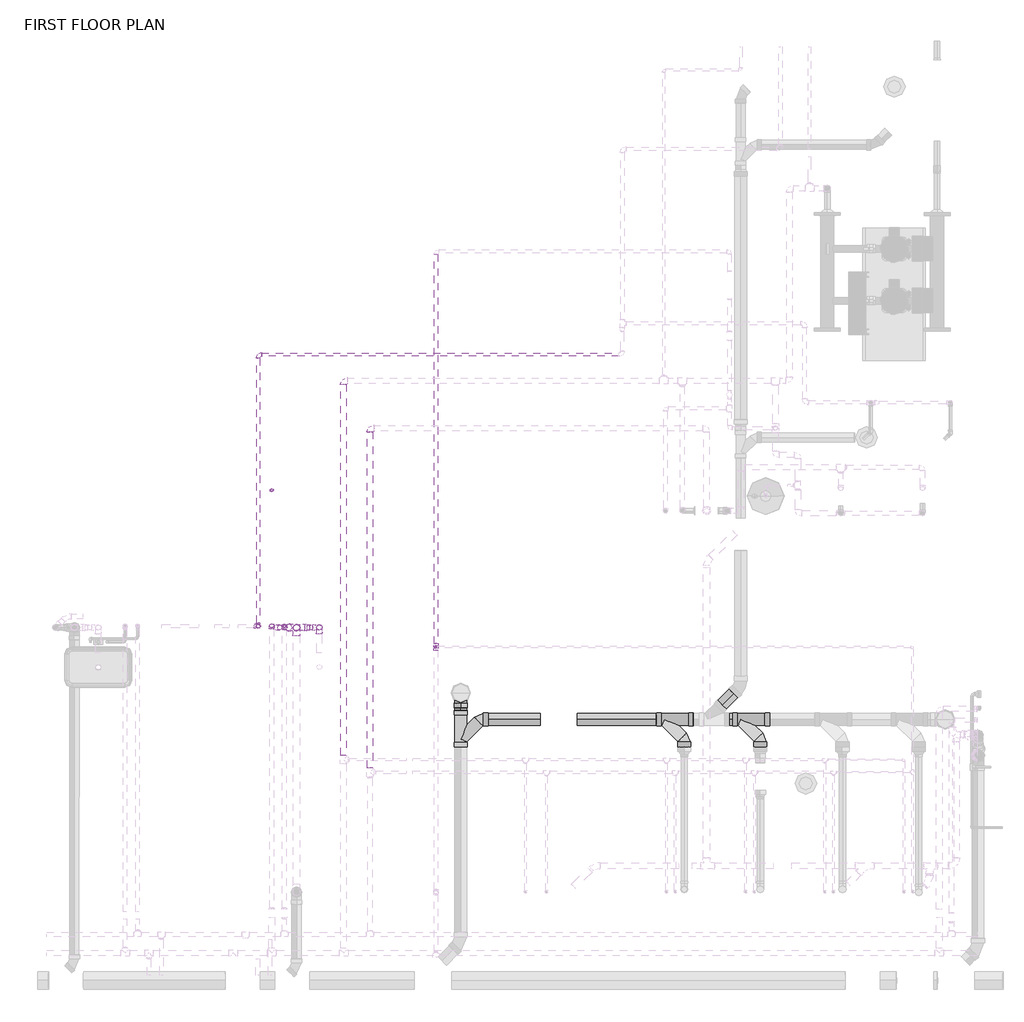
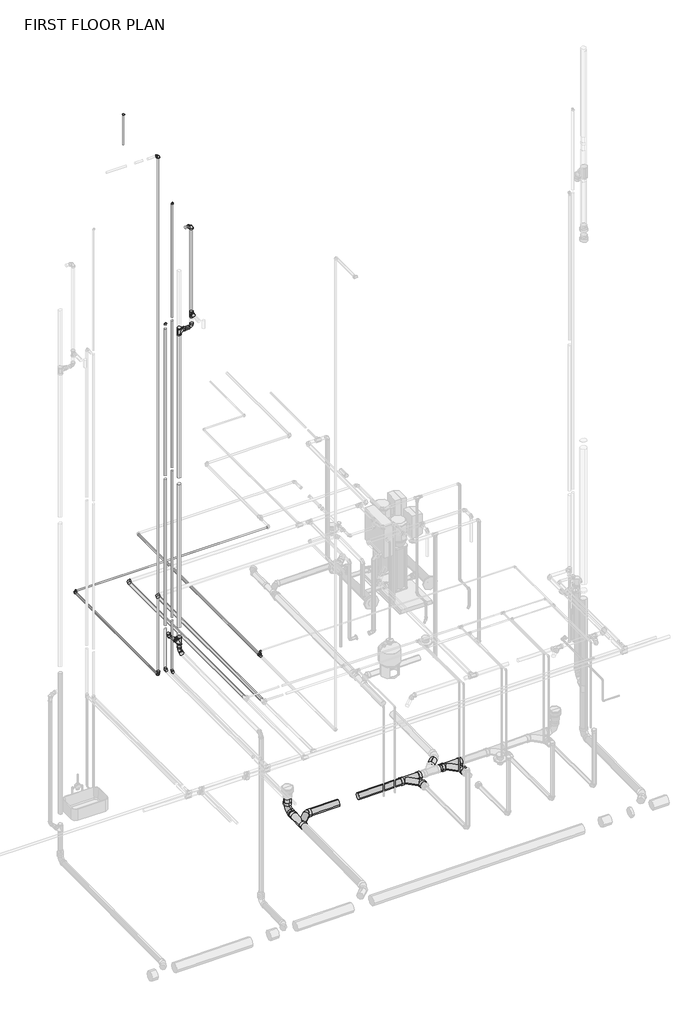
# One storey, part 17 of 29: 30 pipe segments, 28 pipe fittings.
"""IFC4 building model written with IfcOpenShell, lengths in millimetres."""

from ifc_helpers import new_model, si_unit, point, frame, frame_2d, origin, place, context, project, spatial, circle_curve, trimmed, segment, composite_curve, outline, extrude, transform, mapped, element, save
from components import bend_pvc_sch_40_dwv_standard_738aab8b, bend_pvc_sch_40_dwv_standard_0fc7ae8a, bend_pvc_sch_40_dwv_standard_e287c2f6, bend_pvc_sch_40_dwv_standard_5cc4eb0d, bend_pvc_sch_40_dwv_standard_1a9722b0, coupling_concentric_reducing_threaded_mi_class_150_standard_68d17141, elbow_threaded_mi_class_150_standard_9e2fd9b8, elbow_threaded_mi_class_150_standard_46a92b09, ges_wye_45_deg_threaded_mi_class_150_cast_iron_sanitary_d237d51e, pipe_elbow_copper_k_557be1fc, pipe_elbow_copper_k_764eecca, pipe_elbow_copper_k_aad62f2d, pipe_elbow_copper_k_aee2f062, pipe_tee_copper_k_60c871d1, pipe_transition_copper_k_7553a2c5, pipe_transition_copper_k_0a44d8ef, pipe_transition_copper_k_2a5e9307, pipe_transition_copper_k_d15df449, reducer_pvc_sch_40_dwv_standard_f288b410, tee_sanitary_pvc_sch_40_dwv_standard_bd882a60, tee_sanitary_pvc_sch_40_dwv_standard_ad422280, wye_combination_with_8th_bend_pvc_sch_40_dwv_standard_7e54e68b, wye_combination_with_8th_bend_pvc_sch_40_dwv_standard_f6c291ce, wye_combination_with_8th_bend_pvc_sch_40_dwv_standard_4b4f6425

model = new_model("IFC4")

# Units and contexts
model_context = context("Model", 3, world=origin())
ifc_project = project(units=[si_unit("LENGTHUNIT", "METRE", prefix="MILLI")], contexts=[model_context])

# Site, building, storey
site = spatial("IfcSite", under=ifc_project)
building = spatial("IfcBuilding", under=site)
storey = spatial("IfcBuildingStorey", under=building, Name="FIRST FLOOR PLAN", Elevation=0.0)

# Pipe fittings
placement = place(None, origin())
bend_pvc_sch_40_dwv_standard_shape = bend_pvc_sch_40_dwv_standard_738aab8b(model_context)
element("IfcPipeFitting", 1, ObjectType="Bend - PVC - Sch 40 - DWV : Standard", at=placement, inside=storey, context=model_context, shape_type="MappedRepresentation", body=[
    mapped(bend_pvc_sch_40_dwv_standard_shape, transform((10595.0959875, 8912.2305306, 10784.2112003), x_axis=(0.0, 0.0, 1.0), y_axis=(-0.9999118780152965, -0.013275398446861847, 0.0), z_axis=(0.013275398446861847, -0.9999118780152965, 0.0))),
])
bend_pvc_sch_40_dwv_standard_2_shape = bend_pvc_sch_40_dwv_standard_0fc7ae8a(model_context)
element("IfcPipeFitting", 2, ObjectType="Bend - PVC - Sch 40 - DWV : Standard", at=placement, inside=storey, context=model_context, shape_type="MappedRepresentation", body=[
    mapped(bend_pvc_sch_40_dwv_standard_2_shape, transform((10181.640043, 8912.4094236, 3135.3875543), x_axis=(-0.70710930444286, 0.0032160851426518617, 0.7070969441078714), y_axis=(0.7070896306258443, -0.0032159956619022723, 0.7071166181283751), z_axis=(0.004548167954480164, 0.9999896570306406, 0.0))),
])
bend_pvc_sch_40_dwv_standard_3_shape = bend_pvc_sch_40_dwv_standard_e287c2f6(model_context)
element("IfcPipeFitting", 3, ObjectType="Bend - PVC - Sch 40 - DWV : Standard", at=placement, inside=storey, context=model_context, shape_type="MappedRepresentation", body=[
    mapped(bend_pvc_sch_40_dwv_standard_3_shape, transform((10375.4881099, 8911.527761, 2777.0596515), x_axis=(0.0, 0.0, -1.0), y_axis=(0.0, -1.0, 0.0), z_axis=(-1.0, 0.0, 0.0))),
])
bend_pvc_sch_40_dwv_standard_4_shape = bend_pvc_sch_40_dwv_standard_5cc4eb0d(model_context)
element("IfcPipeFitting", 4, ObjectType="Bend - PVC - Sch 40 - DWV : Standard", at=placement, inside=storey, context=model_context, shape_type="MappedRepresentation", body=[
    mapped(bend_pvc_sch_40_dwv_standard_4_shape, transform((11956.7906356, 8283.1947391, -406.2826265), x_axis=(0.0, 0.0, -1.0), y_axis=(0.0, -1.0, 0.0), z_axis=(-1.0, 0.0, 0.0))),
])
bend_pvc_sch_40_dwv_standard_5_shape = bend_pvc_sch_40_dwv_standard_1a9722b0(model_context)
element("IfcPipeFitting", 5, ObjectType="Bend - PVC - Sch 40 - DWV : Standard", at=placement, inside=storey, context=model_context, shape_type="MappedRepresentation", body=[
    mapped(bend_pvc_sch_40_dwv_standard_5_shape, transform((10595.1276117, 8911.527761, 8870.855157), x_axis=(1.0, 0.0, 0.0), y_axis=(0.0, 0.00391158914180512, 0.9999923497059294), z_axis=(0.0, -0.9999923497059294, 0.00391158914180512))),
])
coupling_concentric_reducing_threaded_mi_class_150_standard_shape = coupling_concentric_reducing_threaded_mi_class_150_standard_68d17141(model_context)
element("IfcPipeFitting", 6, ObjectType="Coupling Concentric Reducing - Threaded - MI - Class 150 : Standard", at=placement, inside=storey, context=model_context, shape_type="MappedRepresentation", body=[
    mapped(coupling_concentric_reducing_threaded_mi_class_150_standard_shape, transform((10006.6066918, 8924.7677357, 2471.7), x_axis=(0.0, 0.0, 1.0), y_axis=(-1.0, 0.0, 0.0), z_axis=(0.0, -1.0, 0.0))),
])
elbow_threaded_mi_class_150_standard_shape = elbow_threaded_mi_class_150_standard_9e2fd9b8(model_context)
element("IfcPipeFitting", 7, ObjectType="Elbow - Threaded - MI - Class 150 : Standard", at=placement, inside=storey, context=model_context, shape_type="MappedRepresentation", body=[
    mapped(elbow_threaded_mi_class_150_standard_shape, transform((10006.6066918, 8924.7677357, 12311.3499169), x_axis=(0.0, 0.0, 1.0), y_axis=(-1.0, 0.0, 0.0), z_axis=(0.0, -1.0, 0.0))),
])
elbow_threaded_mi_class_150_standard_2_shape = elbow_threaded_mi_class_150_standard_46a92b09(model_context)
element("IfcPipeFitting", 8, ObjectType="Elbow - Threaded - MI - Class 150 : Standard", at=placement, inside=storey, context=model_context, shape_type="MappedRepresentation", body=[
    mapped(elbow_threaded_mi_class_150_standard_2_shape, transform((10006.6066918, 11540.9677357, 2438.4), x_axis=(-1.0, 0.0, 0.0), y_axis=(0.0, -1.0, 0.0), z_axis=(0.0, 0.0, 1.0))),
])
element("IfcPipeFitting", 9, ObjectType="Elbow - Threaded - MI - Class 150 : Standard", at=placement, inside=storey, context=model_context, shape_type="MappedRepresentation", body=[
    mapped(elbow_threaded_mi_class_150_standard_2_shape, transform((10006.6066918, 8924.7677357, 2438.4), x_axis=(0.0, -1.0, 0.0), y_axis=(0.0, 0.0, 1.0), z_axis=(-1.0, 0.0, 0.0))),
])
ges_wye_45_deg_threaded_mi_class_150_cast_iron_sanitary_shape = ges_wye_45_deg_threaded_mi_class_150_cast_iron_sanitary_d237d51e(model_context)
element("IfcPipeFitting", 10, ObjectType="GES Wye 45 Deg - Threaded - MI - Class 150 : Cast Iron- Sanitary", at=placement, inside=storey, context=model_context, shape_type="MappedRepresentation", body=[
    mapped(ges_wye_45_deg_threaded_mi_class_150_cast_iron_sanitary_shape, transform((10375.4881099, 8911.527761, 2941.5428758), x_axis=(0.0, 0.0, 1.0), y_axis=(0.9999896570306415, -0.004548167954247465, 0.0), z_axis=(0.004548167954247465, 0.9999896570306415, 0.0))),
])
pipe_elbow_copper_k_shape = pipe_elbow_copper_k_557be1fc(model_context)
element("IfcPipeFitting", 11, ObjectType="Pipe Elbow : Copper- K", at=placement, inside=storey, context=model_context, shape_type="MappedRepresentation", body=[
    mapped(pipe_elbow_copper_k_shape, transform((10136.7487434, 8927.8175381, 2490.6882813), x_axis=(0.0, 1.0, 0.0), y_axis=(0.0, 0.0, 1.0), z_axis=(1.0, 0.0, 0.0))),
])
pipe_elbow_copper_k_2_shape = pipe_elbow_copper_k_764eecca(model_context)
element("IfcPipeFitting", 12, ObjectType="Pipe Elbow : Copper- K", at=placement, inside=storey, context=model_context, shape_type="MappedRepresentation", body=[
    mapped(pipe_elbow_copper_k_2_shape, transform((10828.4459875, 11290.0175381, 2490.6882817), x_axis=(-1.0, 0.0, 1.1944832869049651e-08), y_axis=(0.0, -1.0000000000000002, 0.0), z_axis=(1.1944832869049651e-08, 0.0, 1.0))),
])
element("IfcPipeFitting", 13, ObjectType="Pipe Elbow : Copper- K", at=placement, inside=storey, context=model_context, shape_type="MappedRepresentation", body=[
    mapped(pipe_elbow_copper_k_2_shape, transform((11082.5356736, 10833.0897034, 2413.0), x_axis=(-1.0, 0.0, 0.0), y_axis=(0.0, -1.0, 0.0), z_axis=(0.0, 0.0, 1.0))),
])
pipe_elbow_copper_k_3_shape = pipe_elbow_copper_k_aad62f2d(model_context)
element("IfcPipeFitting", 14, ObjectType="Pipe Elbow : Copper- K", at=placement, inside=storey, context=model_context, shape_type="MappedRepresentation", body=[
    mapped(pipe_elbow_copper_k_3_shape, transform((10257.4812856, 8927.8175381, 11328.4), x_axis=(0.0, 0.0, 1.0), y_axis=(-0.0002598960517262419, -0.9999999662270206, 0.0), z_axis=(0.9999999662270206, -0.0002598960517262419, 0.0))),
])
element("IfcPipeFitting", 15, ObjectType="Pipe Elbow : Copper- K", at=placement, inside=storey, context=model_context, shape_type="MappedRepresentation", body=[
    mapped(pipe_elbow_copper_k_3_shape, transform((11717.5356736, 8725.6137881, 2413.0), x_axis=(0.0, 0.0, 1.0), y_axis=(1.0, 0.0, 0.0), z_axis=(0.0, 1.0, 0.0))),
])
pipe_elbow_copper_k_4_shape = pipe_elbow_copper_k_aee2f062(model_context)
element("IfcPipeFitting", 16, ObjectType="Pipe Elbow : Copper- K", at=placement, inside=storey, context=model_context, shape_type="MappedRepresentation", body=[
    mapped(pipe_elbow_copper_k_4_shape, transform((10257.4812856, 8927.8175381, 2413.0), x_axis=(0.0, 1.0, 0.0), y_axis=(0.0, 0.0, 1.0), z_axis=(1.0, 0.0, 0.0))),
])
pipe_tee_copper_k_shape = pipe_tee_copper_k_60c871d1(model_context)
element("IfcPipeFitting", 17, ObjectType="Pipe Tee : Copper- K", at=placement, inside=storey, context=model_context, shape_type="MappedRepresentation", body=[
    mapped(pipe_tee_copper_k_shape, transform((11717.5356736, 8725.6137881, 2336.8), x_axis=(0.0, -1.0, 0.0), y_axis=(0.0, 0.0, -1.0), z_axis=(1.0, 0.0, 0.0))),
])
pipe_transition_copper_k_shape = pipe_transition_copper_k_7553a2c5(model_context)
element("IfcPipeFitting", 18, ObjectType="Pipe Transition : Copper- K", at=placement, inside=storey, context=model_context, shape_type="MappedRepresentation", body=[
    mapped(pipe_transition_copper_k_shape, transform((11717.5356736, 8725.6137881, 2370.1375), x_axis=(0.0, 0.0, 1.0), y_axis=(0.0, 1.0, 0.0), z_axis=(-1.0, 0.0, 0.0))),
])
pipe_transition_copper_k_2_shape = pipe_transition_copper_k_0a44d8ef(model_context)
element("IfcPipeFitting", 19, ObjectType="Pipe Transition : Copper- K", at=placement, inside=storey, context=model_context, shape_type="MappedRepresentation", body=[
    mapped(pipe_transition_copper_k_2_shape, transform((10136.7487434, 10234.3300381, 12255.5), x_axis=(0.0, 0.0, -1.0), y_axis=(1.0, 0.0, 0.0), z_axis=(0.0, -1.0, 0.0))),
])
pipe_transition_copper_k_3_shape = pipe_transition_copper_k_2a5e9307(model_context)
element("IfcPipeFitting", 20, ObjectType="Pipe Transition : Copper- K", at=placement, inside=storey, context=model_context, shape_type="MappedRepresentation", body=[
    mapped(pipe_transition_copper_k_3_shape, transform((10257.4812856, 8927.8175381, 11310.9375), x_axis=(0.0, 0.0, -1.0), y_axis=(-0.9999999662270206, 0.0002598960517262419, 0.0), z_axis=(0.0002598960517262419, 0.9999999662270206, 0.0))),
])
pipe_transition_copper_k_4_shape = pipe_transition_copper_k_d15df449(model_context)
element("IfcPipeFitting", 21, ObjectType="Pipe Transition : Copper- K", at=placement, inside=storey, context=model_context, shape_type="MappedRepresentation", body=[
    mapped(pipe_transition_copper_k_4_shape, transform((10136.7487434, 8927.8175381, 9069.2882812), x_axis=(0.0, 0.0, 1.0), y_axis=(1.0, 0.0, 0.0), z_axis=(0.0, 1.0, 0.0))),
])
reducer_pvc_sch_40_dwv_standard_shape = reducer_pvc_sch_40_dwv_standard_f288b410(model_context)
element("IfcPipeFitting", 22, ObjectType="Reducer - PVC - Sch 40 - DWV : Standard", at=placement, inside=storey, context=model_context, shape_type="MappedRepresentation", body=[
    mapped(reducer_pvc_sch_40_dwv_standard_shape, transform((10453.2840893, 8911.527761, 8870.3344853), x_axis=(0.9999457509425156, 0.0, 0.010416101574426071), y_axis=(0.0, 1.0000000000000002, 0.0), z_axis=(-0.010416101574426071, 0.0, 0.9999457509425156))),
])
element("IfcPipeFitting", 23, ObjectType="Reducer - PVC - Sch 40 - DWV : Standard", at=placement, inside=storey, context=model_context, shape_type="MappedRepresentation", body=[
    mapped(reducer_pvc_sch_40_dwv_standard_shape, transform((10303.6505052, 8911.8544938, 3013.3792248), x_axis=(-0.7071093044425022, 0.0032160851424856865, 0.7070969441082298), y_axis=(-0.004548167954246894, -0.9999896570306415, 0.0), z_axis=(0.7070896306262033, -0.003215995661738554, 0.7071166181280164))),
])
tee_sanitary_pvc_sch_40_dwv_standard_shape = tee_sanitary_pvc_sch_40_dwv_standard_bd882a60(model_context)
element("IfcPipeFitting", 24, ObjectType="Tee Sanitary - PVC - Sch 40 - DWV : Standard", at=placement, inside=storey, context=model_context, shape_type="MappedRepresentation", body=[
    mapped(tee_sanitary_pvc_sch_40_dwv_standard_shape, transform((10375.4881099, 8911.527761, 8869.5241105), x_axis=(0.0, 0.0, 1.0), y_axis=(-1.0, 0.0, 0.0), z_axis=(0.0, -1.0, 0.0))),
])
tee_sanitary_pvc_sch_40_dwv_standard_2_shape = tee_sanitary_pvc_sch_40_dwv_standard_ad422280(model_context)
element("IfcPipeFitting", 25, ObjectType="Tee Sanitary - PVC - Sch 40 - DWV : Standard", at=placement, inside=storey, context=model_context, shape_type="MappedRepresentation", body=[
    mapped(tee_sanitary_pvc_sch_40_dwv_standard_2_shape, transform((10595.0959875, 8912.2305306, 9112.4170389), x_axis=(0.0, 0.0, 1.0), y_axis=(0.0, 1.0, 0.0), z_axis=(-1.0, 0.0, 0.0))),
])
wye_combination_with_8th_bend_pvc_sch_40_dwv_standard_shape = wye_combination_with_8th_bend_pvc_sch_40_dwv_standard_7e54e68b(model_context)
element("IfcPipeFitting", 26, ObjectType="Wye Combination with 8th Bend - PVC - Sch 40 - DWV : Standard", at=placement, inside=storey, context=model_context, shape_type="MappedRepresentation", body=[
    mapped(wye_combination_with_8th_bend_pvc_sch_40_dwv_standard_shape, transform((14840.6890335, 8027.5623861, -378.9046856), x_axis=(0.9999457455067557, 3.826801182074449e-06, 0.010416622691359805), y_axis=(1.253203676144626e-05, 0.9999987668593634, -0.0015703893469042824), z_axis=(-0.010416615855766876, 0.0015704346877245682, 0.9999445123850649))),
])
wye_combination_with_8th_bend_pvc_sch_40_dwv_standard_2_shape = wye_combination_with_8th_bend_pvc_sch_40_dwv_standard_f6c291ce(model_context)
element("IfcPipeFitting", 27, ObjectType="Wye Combination with 8th Bend - PVC - Sch 40 - DWV : Standard", at=placement, inside=storey, context=model_context, shape_type="MappedRepresentation", body=[
    mapped(wye_combination_with_8th_bend_pvc_sch_40_dwv_standard_2_shape, transform((14106.8553548, 8027.5595777, -386.5491689), x_axis=(0.9999457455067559, 3.826801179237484e-06, 0.010416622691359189), y_axis=(1.2834218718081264e-05, 0.9999987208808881, -0.0015993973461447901), z_axis=(-0.01041661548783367, 0.0015994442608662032, 0.9999444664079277))),
])
wye_combination_with_8th_bend_pvc_sch_40_dwv_standard_3_shape = wye_combination_with_8th_bend_pvc_sch_40_dwv_standard_4b4f6425(model_context)
element("IfcPipeFitting", 28, ObjectType="Wye Combination with 8th Bend - PVC - Sch 40 - DWV : Standard", at=placement, inside=storey, context=model_context, shape_type="MappedRepresentation", body=[
    mapped(wye_combination_with_8th_bend_pvc_sch_40_dwv_standard_3_shape, transform((11956.7906356, 8027.5513494, -408.946797), x_axis=(0.0, 0.9999457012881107, 0.010420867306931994), y_axis=(-0.99994575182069, 0.00010854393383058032, -0.010415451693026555), z_axis=(-0.010416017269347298, -0.010420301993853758, 0.9998914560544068))),
])

# Pipe segments
element("IfcPipeSegment", 29, ObjectType="Black Iron - GAS", at=placement, inside=storey, context=model_context, shape_type="SweptSolid", body=[
    extrude(outline(composite_curve([segment(trimmed(circle_curve(frame_2d((11540.9677357, 2438.4)), 13.335), [point((11554.3027357, 2438.4))], [point((11540.9677357, 2425.065))], False, "CARTESIAN"), True, "CONTINUOUS"), segment(trimmed(circle_curve(frame_2d((11540.9677357, 2438.4)), 13.335), [point((11540.9677357, 2425.065))], [point((11527.6327357, 2438.4))], False, "CARTESIAN"), True, "CONTINUOUS"), segment(trimmed(circle_curve(frame_2d((11540.9677357, 2438.4)), 13.335), [point((11527.6327357, 2438.4))], [point((11540.9677357, 2451.735))], False, "CARTESIAN"), True, "CONTINUOUS"), segment(trimmed(circle_curve(frame_2d((11540.9677357, 2438.4)), 13.335), [point((11540.9677357, 2451.735))], [point((11554.3027357, 2438.4))], False, "CARTESIAN"), True, "CONTINUOUS")], self_intersect=False)), frame((10039.9066918, 0.0, 0.0), z_axis=(1.0, 0.0, 0.0), x_axis=(0.0, 1.0, 0.0)), (0.0, 0.0, 1.0), 3438.6),
])
element("IfcPipeSegment", 30, ObjectType="Black Iron - GAS", at=placement, inside=storey, context=model_context, shape_type="SweptSolid", body=[
    extrude(outline(composite_curve([segment(trimmed(circle_curve(frame_2d((2438.4, 10006.6066918)), 13.335), [point((2438.4, 9993.2716918))], [point((2425.065, 10006.6066918))], False, "CARTESIAN"), True, "CONTINUOUS"), segment(trimmed(circle_curve(frame_2d((2438.4, 10006.6066918)), 13.335), [point((2425.065, 10006.6066918))], [point((2438.4, 10019.9416918))], False, "CARTESIAN"), True, "CONTINUOUS"), segment(trimmed(circle_curve(frame_2d((2438.4, 10006.6066918)), 13.335), [point((2438.4, 10019.9416918))], [point((2451.735, 10006.6066918))], False, "CARTESIAN"), True, "CONTINUOUS"), segment(trimmed(circle_curve(frame_2d((2438.4, 10006.6066918)), 13.335), [point((2451.735, 10006.6066918))], [point((2438.4, 9993.2716918))], False, "CARTESIAN"), True, "CONTINUOUS")], self_intersect=False)), frame((0.0, 8958.0677357, 0.0), z_axis=(0.0, 1.0, 0.0), x_axis=(0.0, 0.0, 1.0)), (0.0, 0.0, 1.0), 2549.6),
])
element("IfcPipeSegment", 31, ObjectType="Black Iron - GAS", at=placement, inside=storey, context=model_context, shape_type="SweptSolid", body=[
    extrude(outline(composite_curve([segment(trimmed(circle_curve(frame_2d((10006.6066918, 8924.7677357)), 16.7005), [point((9989.9061918, 8924.7677357))], [point((10006.6066918, 8941.4682357))], False, "CARTESIAN"), True, "CONTINUOUS"), segment(trimmed(circle_curve(frame_2d((10006.6066918, 8924.7677357)), 16.7005), [point((10006.6066918, 8941.4682357))], [point((10023.3071918, 8924.7677357))], False, "CARTESIAN"), True, "CONTINUOUS"), segment(trimmed(circle_curve(frame_2d((10006.6066918, 8924.7677357)), 16.7005), [point((10023.3071918, 8924.7677357))], [point((10006.6066918, 8908.0672357))], False, "CARTESIAN"), True, "CONTINUOUS"), segment(trimmed(circle_curve(frame_2d((10006.6066918, 8924.7677357)), 16.7005), [point((10006.6066918, 8908.0672357))], [point((9989.9061918, 8924.7677357))], False, "CARTESIAN"), True, "CONTINUOUS")], self_intersect=False)), frame((0.0, 0.0, 2514.6), z_axis=(0.0, 0.0, 1.0), x_axis=(1.0, 0.0, 0.0)), (0.0, 0.0, 1.0), 9758.6499169),
])
element("IfcPipeSegment", 32, ObjectType="Copper", at=placement, inside=storey, context=model_context, shape_type="SweptSolid", body=[
    extrude(outline(composite_curve([segment(trimmed(circle_curve(frame_2d((10136.7487434, 8927.8175381)), 20.6375), [point((10116.1112434, 8927.8175381))], [point((10136.7487434, 8948.4550381))], False, "CARTESIAN"), True, "CONTINUOUS"), segment(trimmed(circle_curve(frame_2d((10136.7487434, 8927.8175381)), 20.6375), [point((10136.7487434, 8948.4550381))], [point((10157.3862434, 8927.8175381))], False, "CARTESIAN"), True, "CONTINUOUS"), segment(trimmed(circle_curve(frame_2d((10136.7487434, 8927.8175381)), 20.6375), [point((10157.3862434, 8927.8175381))], [point((10136.7487434, 8907.1800381))], False, "CARTESIAN"), True, "CONTINUOUS"), segment(trimmed(circle_curve(frame_2d((10136.7487434, 8927.8175381)), 20.6375), [point((10136.7487434, 8907.1800381))], [point((10116.1112434, 8927.8175381))], False, "CARTESIAN"), True, "CONTINUOUS")], self_intersect=False)), frame((0.0, 0.0, 9045.8726563), z_axis=(0.0, 0.0, 1.0), x_axis=(1.0, 0.0, 0.0)), (0.0, 0.0, 1.0), 23.415625),
])
element("IfcPipeSegment", 33, ObjectType="Copper", at=placement, inside=storey, context=model_context, shape_type="SweptSolid", body=[
    extrude(outline(composite_curve([segment(trimmed(circle_curve(frame_2d((10257.4812856, 8927.8175381)), 17.4625), [point((10240.0187856, 8927.8175381))], [point((10257.4812856, 8945.2800381))], False, "CARTESIAN"), True, "CONTINUOUS"), segment(trimmed(circle_curve(frame_2d((10257.4812856, 8927.8175381)), 17.4625), [point((10257.4812856, 8945.2800381))], [point((10274.9437856, 8927.8175381))], False, "CARTESIAN"), True, "CONTINUOUS"), segment(trimmed(circle_curve(frame_2d((10257.4812856, 8927.8175381)), 17.4625), [point((10274.9437856, 8927.8175381))], [point((10257.4812856, 8910.3550381))], False, "CARTESIAN"), True, "CONTINUOUS"), segment(trimmed(circle_curve(frame_2d((10257.4812856, 8927.8175381)), 17.4625), [point((10257.4812856, 8910.3550381))], [point((10240.0187856, 8927.8175381))], False, "CARTESIAN"), True, "CONTINUOUS")], self_intersect=False)), frame((0.0, 0.0, 9154.5171883), z_axis=(0.0, 0.0, 1.0), x_axis=(1.0, 0.0, 0.0)), (0.0, 0.0, 1.0), 2152.0546867),
])
element("IfcPipeSegment", 34, ObjectType="Copper", at=placement, inside=storey, context=model_context, shape_type="SweptSolid", body=[
    extrude(outline(composite_curve([segment(trimmed(circle_curve(frame_2d((2490.6882817, 10828.4459875)), 26.9875), [point((2490.6882817, 10801.4584875))], [point((2463.7007817, 10828.4459875))], False, "CARTESIAN"), True, "CONTINUOUS"), segment(trimmed(circle_curve(frame_2d((2490.6882817, 10828.4459875)), 26.9875), [point((2463.7007817, 10828.4459875))], [point((2490.6882817, 10855.4334875))], False, "CARTESIAN"), True, "CONTINUOUS"), segment(trimmed(circle_curve(frame_2d((2490.6882817, 10828.4459875)), 26.9875), [point((2490.6882817, 10855.4334875))], [point((2517.6757817, 10828.4459875))], False, "CARTESIAN"), True, "CONTINUOUS"), segment(trimmed(circle_curve(frame_2d((2490.6882817, 10828.4459875)), 26.9875), [point((2517.6757817, 10828.4459875))], [point((2490.6882817, 10801.4584875))], False, "CARTESIAN"), True, "CONTINUOUS")], self_intersect=False)), frame((0.0, 7682.744996, 0.0), z_axis=(0.0, 1.0, 0.0), x_axis=(0.0, 0.0, 1.0)), (0.0, 0.0, 1.0), 3570.760042),
])
element("IfcPipeSegment", 35, ObjectType="Copper", at=placement, inside=storey, context=model_context, shape_type="SweptSolid", body=[
    extrude(outline(composite_curve([segment(trimmed(circle_curve(frame_2d((2413.0, 11082.5356736)), 26.9875), [point((2413.0, 11055.5481736))], [point((2386.0125, 11082.5356736))], False, "CARTESIAN"), True, "CONTINUOUS"), segment(trimmed(circle_curve(frame_2d((2413.0, 11082.5356736)), 26.9875), [point((2386.0125, 11082.5356736))], [point((2413.0, 11109.5231736))], False, "CARTESIAN"), True, "CONTINUOUS"), segment(trimmed(circle_curve(frame_2d((2413.0, 11082.5356736)), 26.9875), [point((2413.0, 11109.5231736))], [point((2439.9875, 11082.5356736))], False, "CARTESIAN"), True, "CONTINUOUS"), segment(trimmed(circle_curve(frame_2d((2413.0, 11082.5356736)), 26.9875), [point((2439.9875, 11082.5356736))], [point((2413.0, 11055.5481736))], False, "CARTESIAN"), True, "CONTINUOUS")], self_intersect=False)), frame((0.0, 7562.0124538, 0.0), z_axis=(0.0, 1.0, 0.0), x_axis=(0.0, 0.0, 1.0)), (0.0, 0.0, 1.0), 3234.5647496),
])
element("IfcPipeSegment", 36, ObjectType="Copper", at=placement, inside=storey, context=model_context, shape_type="SweptSolid", body=[
    extrude(outline(composite_curve([segment(trimmed(circle_curve(frame_2d((2336.8, 11717.5356736)), 17.4625), [point((2336.8, 11734.9981736))], [point((2354.2625, 11717.5356736))], False, "CARTESIAN"), True, "CONTINUOUS"), segment(trimmed(circle_curve(frame_2d((2336.8, 11717.5356736)), 17.4625), [point((2354.2625, 11717.5356736))], [point((2336.8, 11700.0731736))], False, "CARTESIAN"), True, "CONTINUOUS"), segment(trimmed(circle_curve(frame_2d((2336.8, 11717.5356736)), 17.4625), [point((2336.8, 11700.0731736))], [point((2319.3375, 11717.5356736))], False, "CARTESIAN"), True, "CONTINUOUS"), segment(trimmed(circle_curve(frame_2d((2336.8, 11717.5356736)), 17.4625), [point((2319.3375, 11717.5356736))], [point((2336.8, 11734.9981736))], False, "CARTESIAN"), True, "CONTINUOUS")], self_intersect=False)), frame((0.0, 8758.9512881, 0.0), z_axis=(0.0, 1.0, 0.0), x_axis=(0.0, 0.0, 1.0)), (0.0, 0.0, 1.0), 3749.675),
])
element("IfcPipeSegment", 37, ObjectType="Copper", at=placement, inside=storey, context=model_context, shape_type="SweptSolid", body=[
    extrude(outline(composite_curve([segment(trimmed(circle_curve(frame_2d((11717.5356736, 8725.6137881)), 7.9375), [point((11709.5981736, 8725.6137881))], [point((11717.5356736, 8733.5512881))], False, "CARTESIAN"), True, "CONTINUOUS"), segment(trimmed(circle_curve(frame_2d((11717.5356736, 8725.6137881)), 7.9375), [point((11717.5356736, 8733.5512881))], [point((11725.4731736, 8725.6137881))], False, "CARTESIAN"), True, "CONTINUOUS"), segment(trimmed(circle_curve(frame_2d((11717.5356736, 8725.6137881)), 7.9375), [point((11725.4731736, 8725.6137881))], [point((11717.5356736, 8717.6762881))], False, "CARTESIAN"), True, "CONTINUOUS"), segment(trimmed(circle_curve(frame_2d((11717.5356736, 8725.6137881)), 7.9375), [point((11717.5356736, 8717.6762881))], [point((11709.5981736, 8725.6137881))], False, "CARTESIAN"), True, "CONTINUOUS")], self_intersect=False)), frame((0.0, 0.0, 2378.86875), z_axis=(0.0, 0.0, 1.0), x_axis=(1.0, 0.0, 0.0)), (0.0, 0.0, 1.0), 16.66875),
])
element("IfcPipeSegment", 38, ObjectType="Copper", at=placement, inside=storey, context=model_context, shape_type="SweptSolid", body=[
    extrude(outline(composite_curve([segment(trimmed(circle_curve(frame_2d((10136.7487434, 10234.3300381)), 11.1125), [point((10125.6362434, 10234.3300381))], [point((10136.7487434, 10245.4425381))], False, "CARTESIAN"), True, "CONTINUOUS"), segment(trimmed(circle_curve(frame_2d((10136.7487434, 10234.3300381)), 11.1125), [point((10136.7487434, 10245.4425381))], [point((10147.8612434, 10234.3300381))], False, "CARTESIAN"), True, "CONTINUOUS"), segment(trimmed(circle_curve(frame_2d((10136.7487434, 10234.3300381)), 11.1125), [point((10147.8612434, 10234.3300381))], [point((10136.7487434, 10223.2175381))], False, "CARTESIAN"), True, "CONTINUOUS"), segment(trimmed(circle_curve(frame_2d((10136.7487434, 10234.3300381)), 11.1125), [point((10136.7487434, 10223.2175381))], [point((10125.6362434, 10234.3300381))], False, "CARTESIAN"), True, "CONTINUOUS")], self_intersect=False)), frame((0.0, 0.0, 11680.7257812), z_axis=(0.0, 0.0, 1.0), x_axis=(1.0, 0.0, 0.0)), (0.0, 0.0, 1.0), 566.0429687),
])
element("IfcPipeSegment", 39, ObjectType="Copper", at=placement, inside=storey, context=model_context, shape_type="SweptSolid", body=[
    extrude(outline(composite_curve([segment(trimmed(circle_curve(frame_2d((10257.4812856, 8927.8175381)), 17.4625), [point((10240.0187856, 8927.8175381))], [point((10257.4812856, 8945.2800381))], False, "CARTESIAN"), True, "CONTINUOUS"), segment(trimmed(circle_curve(frame_2d((10257.4812856, 8927.8175381)), 17.4625), [point((10257.4812856, 8945.2800381))], [point((10274.9437856, 8927.8175381))], False, "CARTESIAN"), True, "CONTINUOUS"), segment(trimmed(circle_curve(frame_2d((10257.4812856, 8927.8175381)), 17.4625), [point((10274.9437856, 8927.8175381))], [point((10257.4812856, 8910.3550381))], False, "CARTESIAN"), True, "CONTINUOUS"), segment(trimmed(circle_curve(frame_2d((10257.4812856, 8927.8175381)), 17.4625), [point((10257.4812856, 8910.3550381))], [point((10240.0187856, 8927.8175381))], False, "CARTESIAN"), True, "CONTINUOUS")], self_intersect=False)), frame((0.0, 0.0, 2439.9875), z_axis=(0.0, 0.0, 1.0), x_axis=(1.0, 0.0, 0.0)), (0.0, 0.0, 1.0), 945.5546883),
])
element("IfcPipeSegment", 40, ObjectType="Copper", at=placement, inside=storey, context=model_context, shape_type="SweptSolid", body=[
    extrude(outline(composite_curve([segment(trimmed(circle_curve(frame_2d((10136.7487434, 8927.8175381)), 20.6375), [point((10116.1112434, 8927.8175381))], [point((10136.7487434, 8948.4550381))], False, "CARTESIAN"), True, "CONTINUOUS"), segment(trimmed(circle_curve(frame_2d((10136.7487434, 8927.8175381)), 20.6375), [point((10136.7487434, 8948.4550381))], [point((10157.3862434, 8927.8175381))], False, "CARTESIAN"), True, "CONTINUOUS"), segment(trimmed(circle_curve(frame_2d((10136.7487434, 8927.8175381)), 20.6375), [point((10157.3862434, 8927.8175381))], [point((10136.7487434, 8907.1800381))], False, "CARTESIAN"), True, "CONTINUOUS"), segment(trimmed(circle_curve(frame_2d((10136.7487434, 8927.8175381)), 20.6375), [point((10136.7487434, 8907.1800381))], [point((10116.1112434, 8927.8175381))], False, "CARTESIAN"), True, "CONTINUOUS")], self_intersect=False)), frame((0.0, 0.0, 2520.8507812), z_axis=(0.0, 0.0, 1.0), x_axis=(1.0, 0.0, 0.0)), (0.0, 0.0, 1.0), 749.696875),
])
element("IfcPipeSegment", 41, ObjectType="Copper", at=placement, inside=storey, context=model_context, shape_type="SweptSolid", body=[
    extrude(outline(composite_curve([segment(trimmed(circle_curve(frame_2d((10257.4812856, 8927.8175381)), 17.4625), [point((10240.0187856, 8927.8175381))], [point((10257.4812856, 8945.2800381))], False, "CARTESIAN"), True, "CONTINUOUS"), segment(trimmed(circle_curve(frame_2d((10257.4812856, 8927.8175381)), 17.4625), [point((10257.4812856, 8945.2800381))], [point((10274.9437856, 8927.8175381))], False, "CARTESIAN"), True, "CONTINUOUS"), segment(trimmed(circle_curve(frame_2d((10257.4812856, 8927.8175381)), 17.4625), [point((10274.9437856, 8927.8175381))], [point((10257.4812856, 8910.3550381))], False, "CARTESIAN"), True, "CONTINUOUS"), segment(trimmed(circle_curve(frame_2d((10257.4812856, 8927.8175381)), 17.4625), [point((10257.4812856, 8910.3550381))], [point((10240.0187856, 8927.8175381))], False, "CARTESIAN"), True, "CONTINUOUS")], self_intersect=False)), frame((0.0, 0.0, 3452.2171883), z_axis=(0.0, 0.0, 1.0), x_axis=(1.0, 0.0, 0.0)), (0.0, 0.0, 1.0), 2778.125),
])
element("IfcPipeSegment", 42, ObjectType="Copper", at=placement, inside=storey, context=model_context, shape_type="SweptSolid", body=[
    extrude(outline(composite_curve([segment(trimmed(circle_curve(frame_2d((10136.7487434, 8927.8175381)), 20.6375), [point((10116.1112434, 8927.8175381))], [point((10136.7487434, 8948.4550381))], False, "CARTESIAN"), True, "CONTINUOUS"), segment(trimmed(circle_curve(frame_2d((10136.7487434, 8927.8175381)), 20.6375), [point((10136.7487434, 8948.4550381))], [point((10157.3862434, 8927.8175381))], False, "CARTESIAN"), True, "CONTINUOUS"), segment(trimmed(circle_curve(frame_2d((10136.7487434, 8927.8175381)), 20.6375), [point((10157.3862434, 8927.8175381))], [point((10136.7487434, 8907.1800381))], False, "CARTESIAN"), True, "CONTINUOUS"), segment(trimmed(circle_curve(frame_2d((10136.7487434, 8927.8175381)), 20.6375), [point((10136.7487434, 8907.1800381))], [point((10116.1112434, 8927.8175381))], False, "CARTESIAN"), True, "CONTINUOUS")], self_intersect=False)), frame((0.0, 0.0, 3343.5726563), z_axis=(0.0, 0.0, 1.0), x_axis=(1.0, 0.0, 0.0)), (0.0, 0.0, 1.0), 2771.775),
])
element("IfcPipeSegment", 43, ObjectType="Copper", at=placement, inside=storey, context=model_context, shape_type="SweptSolid", body=[
    extrude(outline(composite_curve([segment(trimmed(circle_curve(frame_2d((10136.7487434, 8927.8175381)), 20.6375), [point((10116.1112434, 8927.8175381))], [point((10136.7487434, 8948.4550381))], False, "CARTESIAN"), True, "CONTINUOUS"), segment(trimmed(circle_curve(frame_2d((10136.7487434, 8927.8175381)), 20.6375), [point((10136.7487434, 8948.4550381))], [point((10157.3862434, 8927.8175381))], False, "CARTESIAN"), True, "CONTINUOUS"), segment(trimmed(circle_curve(frame_2d((10136.7487434, 8927.8175381)), 20.6375), [point((10157.3862434, 8927.8175381))], [point((10136.7487434, 8907.1800381))], False, "CARTESIAN"), True, "CONTINUOUS"), segment(trimmed(circle_curve(frame_2d((10136.7487434, 8927.8175381)), 20.6375), [point((10136.7487434, 8907.1800381))], [point((10116.1112434, 8927.8175381))], False, "CARTESIAN"), True, "CONTINUOUS")], self_intersect=False)), frame((0.0, 0.0, 6188.3726563), z_axis=(0.0, 0.0, 1.0), x_axis=(1.0, 0.0, 0.0)), (0.0, 0.0, 1.0), 2784.475),
])
element("IfcPipeSegment", 44, ObjectType="Copper", at=placement, inside=storey, context=model_context, shape_type="SweptSolid", body=[
    extrude(outline(composite_curve([segment(trimmed(circle_curve(frame_2d((10257.4812856, 8927.8175381)), 17.4625), [point((10240.0187856, 8927.8175381))], [point((10257.4812856, 8945.2800381))], False, "CARTESIAN"), True, "CONTINUOUS"), segment(trimmed(circle_curve(frame_2d((10257.4812856, 8927.8175381)), 17.4625), [point((10257.4812856, 8945.2800381))], [point((10274.9437856, 8927.8175381))], False, "CARTESIAN"), True, "CONTINUOUS"), segment(trimmed(circle_curve(frame_2d((10257.4812856, 8927.8175381)), 17.4625), [point((10274.9437856, 8927.8175381))], [point((10257.4812856, 8910.3550381))], False, "CARTESIAN"), True, "CONTINUOUS"), segment(trimmed(circle_curve(frame_2d((10257.4812856, 8927.8175381)), 17.4625), [point((10257.4812856, 8910.3550381))], [point((10240.0187856, 8927.8175381))], False, "CARTESIAN"), True, "CONTINUOUS")], self_intersect=False)), frame((0.0, 0.0, 6297.0171883), z_axis=(0.0, 0.0, 1.0), x_axis=(1.0, 0.0, 0.0)), (0.0, 0.0, 1.0), 2790.825),
])
element("IfcPipeSegment", 45, ObjectType="PVC - SAN/STORM", at=placement, inside=storey, context=model_context, shape_type="SweptSolid", body=[
    extrude(outline(composite_curve([segment(trimmed(circle_curve(frame_2d((10375.4881099, 8911.527761)), 30.1625), [point((10345.3256099, 8911.527761))], [point((10375.4881099, 8941.690261))], False, "CARTESIAN"), True, "CONTINUOUS"), segment(trimmed(circle_curve(frame_2d((10375.4881099, 8911.527761)), 30.1625), [point((10375.4881099, 8941.690261))], [point((10405.6506099, 8911.527761))], False, "CARTESIAN"), True, "CONTINUOUS"), segment(trimmed(circle_curve(frame_2d((10375.4881099, 8911.527761)), 30.1625), [point((10405.6506099, 8911.527761))], [point((10375.4881099, 8881.365261))], False, "CARTESIAN"), True, "CONTINUOUS"), segment(trimmed(circle_curve(frame_2d((10375.4881099, 8911.527761)), 30.1625), [point((10375.4881099, 8881.365261))], [point((10345.3256099, 8911.527761))], False, "CARTESIAN"), True, "CONTINUOUS")], self_intersect=False)), frame((0.0, 0.0, 6080.9367935), z_axis=(0.0, 0.0, 1.0), x_axis=(1.0, 0.0, 0.0)), (0.0, 0.0, 1.0), 2710.787117),
])
element("IfcPipeSegment", 46, ObjectType="PVC - SAN/STORM", at=placement, inside=storey, context=model_context, shape_type="SweptSolid", body=[
    extrude(outline(composite_curve([segment(trimmed(circle_curve(frame_2d((10595.0959875, 8912.2305306)), 24.13), [point((10570.9659875, 8912.2305306))], [point((10595.0959875, 8936.3605306))], False, "CARTESIAN"), True, "CONTINUOUS"), segment(trimmed(circle_curve(frame_2d((10595.0959875, 8912.2305306)), 24.13), [point((10595.0959875, 8936.3605306))], [point((10619.2259875, 8912.2305306))], False, "CARTESIAN"), True, "CONTINUOUS"), segment(trimmed(circle_curve(frame_2d((10595.0959875, 8912.2305306)), 24.13), [point((10619.2259875, 8912.2305306))], [point((10595.0959875, 8888.1005306))], False, "CARTESIAN"), True, "CONTINUOUS"), segment(trimmed(circle_curve(frame_2d((10595.0959875, 8912.2305306)), 24.13), [point((10595.0959875, 8888.1005306))], [point((10570.9659875, 8912.2305306))], False, "CARTESIAN"), True, "CONTINUOUS")], self_intersect=False)), frame((0.0, 0.0, 9158.6112003), z_axis=(0.0, 0.0, 1.0), x_axis=(1.0, 0.0, 0.0)), (0.0, 0.0, 1.0), 1563.7002),
])
element("IfcPipeSegment", 47, ObjectType="PVC - SAN/STORM", at=placement, inside=storey, context=model_context, shape_type="SweptSolid", body=[
    extrude(outline(composite_curve([segment(trimmed(circle_curve(frame_2d((10375.4881099, 8911.527761)), 30.1625), [point((10345.3256099, 8911.527761))], [point((10375.4881099, 8941.690261))], False, "CARTESIAN"), True, "CONTINUOUS"), segment(trimmed(circle_curve(frame_2d((10375.4881099, 8911.527761)), 30.1625), [point((10375.4881099, 8941.690261))], [point((10405.6506099, 8911.527761))], False, "CARTESIAN"), True, "CONTINUOUS"), segment(trimmed(circle_curve(frame_2d((10375.4881099, 8911.527761)), 30.1625), [point((10405.6506099, 8911.527761))], [point((10375.4881099, 8881.365261))], False, "CARTESIAN"), True, "CONTINUOUS"), segment(trimmed(circle_curve(frame_2d((10375.4881099, 8911.527761)), 30.1625), [point((10375.4881099, 8881.365261))], [point((10345.3256099, 8911.527761))], False, "CARTESIAN"), True, "CONTINUOUS")], self_intersect=False)), frame((0.0, 0.0, 3043.1362282), z_axis=(0.0, 0.0, 1.0), x_axis=(1.0, 0.0, 0.0)), (0.0, 0.0, 1.0), 61.2253653),
])
element("IfcPipeSegment", 48, ObjectType="PVC - SAN/STORM", at=placement, inside=storey, context=model_context, shape_type="SweptSolid", body=[
    extrude(outline(composite_curve([segment(trimmed(circle_curve(frame_2d((0.0, -24.13)), 24.13), [point((-0.1552067, -48.2595008))], [point((-24.1295008, -23.9747933))], False, "CARTESIAN"), True, "CONTINUOUS"), segment(trimmed(circle_curve(frame_2d((0.0, -24.13)), 24.13), [point((-24.1295008, -23.9747933))], [point((0.1552067, -0.0004992))], False, "CARTESIAN"), True, "CONTINUOUS"), segment(trimmed(circle_curve(frame_2d((0.0, -24.13)), 24.13), [point((0.1552067, -0.0004992))], [point((24.1295008, -24.2852067))], False, "CARTESIAN"), True, "CONTINUOUS"), segment(trimmed(circle_curve(frame_2d((0.0, -24.13)), 24.13), [point((24.1295008, -24.2852067))], [point((-0.1552067, -48.2595008))], False, "CARTESIAN"), True, "CONTINUOUS")], self_intersect=False)), frame((10268.3040909, 8936.1450073, 3048.615272), z_axis=(-0.7071093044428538, 0.003216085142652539, 0.7070969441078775), x_axis=(0.7071042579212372, 0.003216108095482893, 0.7071019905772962)), (0.0, 0.0, 1.0), 79.7112347),
])
element("IfcPipeSegment", 49, ObjectType="PVC - SAN/STORM", at=placement, inside=storey, context=model_context, shape_type="SweptSolid", body=[
    extrude(outline(composite_curve([segment(trimmed(circle_curve(frame_2d((10375.4881099, 8911.527761)), 30.1625), [point((10405.6506099, 8911.527761))], [point((10375.4881099, 8881.365261))], False, "CARTESIAN"), True, "CONTINUOUS"), segment(trimmed(circle_curve(frame_2d((10375.4881099, 8911.527761)), 30.1625), [point((10375.4881099, 8881.365261))], [point((10345.3256099, 8911.527761))], False, "CARTESIAN"), True, "CONTINUOUS"), segment(trimmed(circle_curve(frame_2d((10375.4881099, 8911.527761)), 30.1625), [point((10345.3256099, 8911.527761))], [point((10375.4881099, 8941.690261))], False, "CARTESIAN"), True, "CONTINUOUS"), segment(trimmed(circle_curve(frame_2d((10375.4881099, 8911.527761)), 30.1625), [point((10375.4881099, 8941.690261))], [point((10405.6506099, 8911.527761))], False, "CARTESIAN"), True, "CONTINUOUS")], self_intersect=False)), frame((0.0, 0.0, 2854.8598515), z_axis=(0.0, 0.0, 1.0), x_axis=(1.0, 0.0, 0.0)), (0.0, 0.0, 1.0), 49.1830243),
])
element("IfcPipeSegment", 50, ObjectType="PVC - SAN/STORM", at=placement, inside=storey, context=model_context, shape_type="SweptSolid", body=[
    extrude(outline(composite_curve([segment(trimmed(circle_curve(frame_2d((10375.4881099, 8911.527761)), 30.1625), [point((10345.3256099, 8911.527761))], [point((10375.4881099, 8941.690261))], False, "CARTESIAN"), True, "CONTINUOUS"), segment(trimmed(circle_curve(frame_2d((10375.4881099, 8911.527761)), 30.1625), [point((10375.4881099, 8941.690261))], [point((10405.6506099, 8911.527761))], False, "CARTESIAN"), True, "CONTINUOUS"), segment(trimmed(circle_curve(frame_2d((10375.4881099, 8911.527761)), 30.1625), [point((10405.6506099, 8911.527761))], [point((10375.4881099, 8881.365261))], False, "CARTESIAN"), True, "CONTINUOUS"), segment(trimmed(circle_curve(frame_2d((10375.4881099, 8911.527761)), 30.1625), [point((10375.4881099, 8881.365261))], [point((10345.3256099, 8911.527761))], False, "CARTESIAN"), True, "CONTINUOUS")], self_intersect=False)), frame((0.0, 0.0, 3236.1367935), z_axis=(0.0, 0.0, 1.0), x_axis=(1.0, 0.0, 0.0)), (0.0, 0.0, 1.0), 2713.0248),
])
element("IfcPipeSegment", 51, ObjectType="PVC - SAN/STORM", at=placement, inside=storey, context=model_context, shape_type="SweptSolid", body=[
    extrude(outline(composite_curve([segment(trimmed(circle_curve(frame_2d((0.0, 57.15)), 57.15), [point((0.0209965, 3.8e-06))], [point((-57.1499961, 57.1290033))], False, "CARTESIAN"), True, "CONTINUOUS"), segment(trimmed(circle_curve(frame_2d((0.0, 57.15)), 57.15), [point((-57.1499961, 57.1290033))], [point((-0.0209966, 114.2999961))], False, "CARTESIAN"), True, "CONTINUOUS"), segment(trimmed(circle_curve(frame_2d((0.0, 57.15)), 57.15), [point((-0.0209966, 114.2999961))], [point((57.1499961, 57.1709966))], False, "CARTESIAN"), True, "CONTINUOUS"), segment(trimmed(circle_curve(frame_2d((0.0, 57.15)), 57.15), [point((57.1499961, 57.1709966))], [point((0.0209965, 3.8e-06))], False, "CARTESIAN"), True, "CONTINUOUS")], self_intersect=False)), frame((14540.6668815, 7970.4112418, -382.0090773), z_axis=(0.9999457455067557, 3.826801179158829e-06, 0.010416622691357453), x_axis=(0.010416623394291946, -0.00036735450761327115, -0.9999456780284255)), (0.0, 0.0, 1.0), 34.1283179),
])
element("IfcPipeSegment", 52, ObjectType="PVC - SAN/STORM", at=placement, inside=storey, context=model_context, shape_type="SweptSolid", body=[
    extrude(outline(composite_curve([segment(trimmed(circle_curve(frame_2d((0.0, 57.15)), 57.15), [point((0.0209965, 3.8e-06))], [point((-57.1499961, 57.1290034))], False, "CARTESIAN"), True, "CONTINUOUS"), segment(trimmed(circle_curve(frame_2d((0.0, 57.15)), 57.15), [point((-57.1499961, 57.1290034))], [point((-0.0209966, 114.2999961))], False, "CARTESIAN"), True, "CONTINUOUS"), segment(trimmed(circle_curve(frame_2d((0.0, 57.15)), 57.15), [point((-0.0209966, 114.2999961))], [point((57.1499961, 57.1709966))], False, "CARTESIAN"), True, "CONTINUOUS"), segment(trimmed(circle_curve(frame_2d((0.0, 57.15)), 57.15), [point((57.1499961, 57.1709966))], [point((0.0209965, 3.8e-06))], False, "CARTESIAN"), True, "CONTINUOUS")], self_intersect=False)), frame((13076.15956, 7970.4056371, -397.2651252), z_axis=(0.9999457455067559, 3.826801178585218e-06, 0.010416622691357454), x_axis=(0.010416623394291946, -0.00036735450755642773, -0.9999456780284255)), (0.0, 0.0, 1.0), 764.8416618),
])
element("IfcPipeSegment", 53, ObjectType="PVC - SAN/STORM", at=placement, inside=storey, context=model_context, shape_type="SweptSolid", body=[
    extrude(outline(composite_curve([segment(trimmed(circle_curve(frame_2d((0.0, -57.15)), 57.15), [point((-57.15, -57.1500033))], [point((-3.2e-06, 0.0))], False, "CARTESIAN"), True, "CONTINUOUS"), segment(trimmed(circle_curve(frame_2d((0.0, -57.15)), 57.15), [point((-3.2e-06, 0.0))], [point((57.1500001, -57.1499968))], False, "CARTESIAN"), True, "CONTINUOUS"), segment(trimmed(circle_curve(frame_2d((0.0, -57.15)), 57.15), [point((57.1500001, -57.1499968))], [point((3.3e-06, -114.2999999))], False, "CARTESIAN"), True, "CONTINUOUS"), segment(trimmed(circle_curve(frame_2d((0.0, -57.15)), 57.15), [point((3.3e-06, -114.2999999))], [point((-57.15, -57.1500033))], False, "CARTESIAN"), True, "CONTINUOUS")], self_intersect=False)), frame((11956.7906356, 8226.0447405, -263.3948888), z_axis=(0.0002554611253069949, 0.0002228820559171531, 0.9999999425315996), x_axis=(-0.9999999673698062, 5.69377043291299e-08, 0.0002554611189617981)), (0.0, 0.0, 1.0), 85.3430481),
])
element("IfcPipeSegment", 54, ObjectType="PVC - SAN/STORM", at=placement, inside=storey, context=model_context, shape_type="SweptSolid", body=[
    extrude(outline(composite_curve([segment(trimmed(circle_curve(frame_2d((0.0, -57.1500001)), 57.15), [point((-57.15, -57.1500001))], [point((0.0, 0.0))], False, "CARTESIAN"), True, "CONTINUOUS"), segment(trimmed(circle_curve(frame_2d((0.0, -57.1500001)), 57.15), [point((0.0, 0.0))], [point((57.15, -57.1500001))], False, "CARTESIAN"), True, "CONTINUOUS"), segment(trimmed(circle_curve(frame_2d((0.0, -57.1500001)), 57.15), [point((57.15, -57.1500001))], [point((0.0, -114.3))], False, "CARTESIAN"), True, "CONTINUOUS"), segment(trimmed(circle_curve(frame_2d((0.0, -57.1500001)), 57.15), [point((0.0, -114.3))], [point((-57.15, -57.1500001))], False, "CARTESIAN"), True, "CONTINUOUS")], self_intersect=False)), frame((11956.7906356, 8117.4475833, -465.1630528), z_axis=(0.0, 0.9999457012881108, 0.010420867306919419), x_axis=(1.0, 0.0, 0.0)), (0.0, 0.0, 1.0), 23.476741),
])
element("IfcPipeSegment", 55, ObjectType="PVC - SAN/STORM", at=placement, inside=storey, context=model_context, shape_type="SweptSolid", body=[
    extrude(outline(composite_curve([segment(trimmed(circle_curve(frame_2d((1e-07, 57.1500001)), 57.15), [point((0.0209966, 3.9e-06))], [point((-57.1499961, 57.1290034))], False, "CARTESIAN"), True, "CONTINUOUS"), segment(trimmed(circle_curve(frame_2d((1e-07, 57.1500001)), 57.15), [point((-57.1499961, 57.1290034))], [point((-0.0209965, 114.2999962))], False, "CARTESIAN"), True, "CONTINUOUS"), segment(trimmed(circle_curve(frame_2d((1e-07, 57.1500001)), 57.15), [point((-0.0209965, 114.2999962))], [point((57.1499961, 57.1709966))], False, "CARTESIAN"), True, "CONTINUOUS"), segment(trimmed(circle_curve(frame_2d((1e-07, 57.1500001)), 57.15), [point((57.1499961, 57.1709966))], [point((0.0209966, 3.9e-06))], False, "CARTESIAN"), True, "CONTINUOUS")], self_intersect=False)), frame((12219.5139822, 7970.4023587, -406.1889631), z_axis=(0.9999457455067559, 3.826801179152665e-06, 0.010416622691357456), x_axis=(0.010416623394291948, -0.0003673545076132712, -0.9999456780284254)), (0.0, 0.0, 1.0), 501.4984572),
])
element("IfcPipeSegment", 56, ObjectType="PVC - SAN/STORM", at=placement, inside=storey, context=model_context, shape_type="SweptSolid", body=[
    extrude(outline(composite_curve([segment(trimmed(circle_curve(frame_2d((0.0, -57.15)), 57.15), [point((-57.1495899, -56.9334952))], [point((0.2165048, -0.0004101))], False, "CARTESIAN"), True, "CONTINUOUS"), segment(trimmed(circle_curve(frame_2d((0.0, -57.15)), 57.15), [point((0.2165048, -0.0004101))], [point((57.1495898, -57.3665047))], False, "CARTESIAN"), True, "CONTINUOUS"), segment(trimmed(circle_curve(frame_2d((0.0, -57.15)), 57.15), [point((57.1495898, -57.3665047))], [point((-0.2165047, -114.2995899))], False, "CARTESIAN"), True, "CONTINUOUS"), segment(trimmed(circle_curve(frame_2d((0.0, -57.15)), 57.15), [point((-0.2165047, -114.2995899))], [point((-57.1495899, -56.9334952))], False, "CARTESIAN"), True, "CONTINUOUS")], self_intersect=False)), frame((14471.7559929, 8169.0064408, -440.148931), z_axis=(0.7071112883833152, 0.707092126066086, 0.003788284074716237), x_axis=(0.7071022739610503, -0.7071011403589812, -0.00378833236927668)), (0.0, 0.0, 1.0), 156.7419198),
])
element("IfcPipeSegment", 57, ObjectType="PVC - SAN/STORM", at=placement, inside=storey, context=model_context, shape_type="SweptSolid", body=[
    extrude(outline(composite_curve([segment(trimmed(circle_curve(frame_2d((8911.527761, 8870.855157)), 24.13), [point((8887.397761, 8870.855157))], [point((8911.527761, 8894.985157))], False, "CARTESIAN"), True, "CONTINUOUS"), segment(trimmed(circle_curve(frame_2d((8911.527761, 8870.855157)), 24.13), [point((8911.527761, 8894.985157))], [point((8935.657761, 8870.855157))], False, "CARTESIAN"), True, "CONTINUOUS"), segment(trimmed(circle_curve(frame_2d((8911.527761, 8870.855157)), 24.13), [point((8935.657761, 8870.855157))], [point((8911.527761, 8846.725157))], False, "CARTESIAN"), True, "CONTINUOUS"), segment(trimmed(circle_curve(frame_2d((8911.527761, 8870.855157)), 24.13), [point((8911.527761, 8846.725157))], [point((8887.397761, 8870.855157))], False, "CARTESIAN"), True, "CONTINUOUS")], self_intersect=False)), frame((10503.2685776, 0.0, 0.0), z_axis=(1.0, 0.0, 0.0), x_axis=(0.0, 1.0, 0.0)), (0.0, 0.0, 1.0), 29.9592342),
])
element("IfcPipeSegment", 58, ObjectType="PVC - SAN/STORM", at=placement, inside=storey, context=model_context, shape_type="SweptSolid", body=[
    extrude(outline(composite_curve([segment(trimmed(circle_curve(frame_2d((0.0, -24.13)), 24.13), [point((-24.13, -24.13))], [point((0.0, 0.0))], False, "CARTESIAN"), True, "CONTINUOUS"), segment(trimmed(circle_curve(frame_2d((0.0, -24.13)), 24.13), [point((0.0, 0.0))], [point((24.1299999, -24.13))], False, "CARTESIAN"), True, "CONTINUOUS"), segment(trimmed(circle_curve(frame_2d((0.0, -24.13)), 24.13), [point((24.1299999, -24.13))], [point((0.0, -48.26))], False, "CARTESIAN"), True, "CONTINUOUS"), segment(trimmed(circle_curve(frame_2d((0.0, -24.13)), 24.13), [point((0.0, -48.26))], [point((-24.13, -24.13))], False, "CARTESIAN"), True, "CONTINUOUS")], self_intersect=False)), frame((10533.2016422, 8911.4087861, 10760.0812003), z_axis=(-0.9999974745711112, 0.0022474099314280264, 0.0), x_axis=(0.0022474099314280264, 0.9999974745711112, 0.0)), (0.0, 0.0, 1.0), 52.938666),
])

save(model, "model.ifc")
